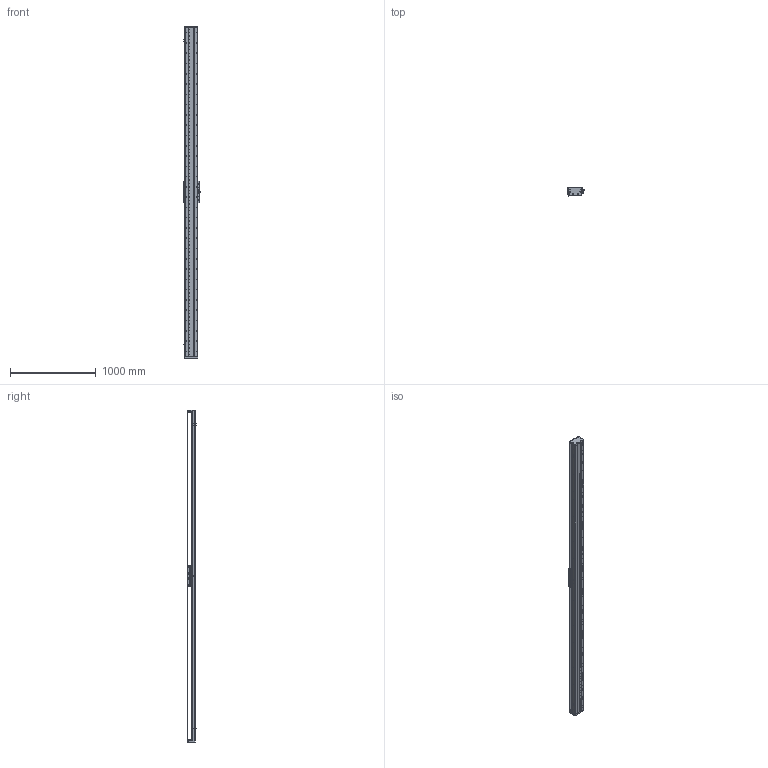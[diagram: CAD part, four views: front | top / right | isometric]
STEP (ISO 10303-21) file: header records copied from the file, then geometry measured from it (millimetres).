
FILE_DESCRIPTION (( 'STEP AP203' ), '1' );
FILE_NAME ('DA-C145-C3-T3540-C010-0.2 眻盄萇儂.STEP', '2025-08-14T01:39:30', ( '' ), ( '' ), 'SwSTEP 2.0', 'SolidWorks 2019', '' );
FILE_SCHEMA (( 'CONFIG_CONTROL_DESIGN' ));
Length unit declared in the file: millimetre
Products named in the file (32): 葩璃 DA95-GT-T-00^IU-CU145-L 菁釱絳寢; 复件 DA145-DG 钢带端盖^复件 CU145 钢带组件_DA-C145-C3-T-C010-0.2; 复件 半圆头内六角螺钉 M3×6^CU145-W 滚珠滑台; 复件 DA95-HK-GT-00 滑块钢轨^CU145-W-00 一体化滑动台板; TAY01-M8; 复件 DA145-GYP-00 光电感应片^DA-C145-C3-T-C010-0.2; 复件 DA145-C3-YB-A-00 压板A^CU145-W 滚珠滑台; 葩璃 DA145-C3-DP-B-00 菜えB^CU145-W 幗紩賑怢; 复件 DA145-C3-YB-B-00 压板B^CU145-W 滚珠滑台; 葩璃 CKMA01-W060-TRL^DA-C145-C3-T-C010-0.2; 葩璃 CU145 詩湍郪璃^DA-C145-C3-T-C010-0.2; 复件 DA145 钢带^复件 CU145 钢带组件_DA-C145-C3-T-C010-0.2; IU-CU145-L 菁釱絳寢; CU145-W 幗紩賑怢; 葩璃 PM-T45^DA-C145-C3-T-C010-0.2; IU-CU145-L-00 菁釱(L3840); 复件 内六角平端紧定螺钉 GB.T77-2000 M5×10^CU145-W 滚珠滑台; 66245-CU145-HT-W-00 賑雄怢啣(3D芞祧)(00); CU145-W-00 珨极趙賑雄怢啣; 葩璃 DA145-C3-DP-A-00 菜えA^CU145-W 幗紩賑怢; 葩璃 DMA-010-0.2 黍杅芛^DA-C145-C3-T-C010-0.2; 葩璃 DA95-HXJ-00 遣喳砎蝶^DA-C145-C3-T-C010-0.2; 复件 DA145-C3-DK-00 挡块^CU145-W 滚珠滑台; 复件 DA95-DB-00  挡板^CU145-W 滚珠滑台; 葩璃 CKM03-W060-C1C2-TP-0.2^DA-C145-C3-T-C010-0.2; 复件 纯铜油杯 6x6mm^CU145-W 滚珠滑台; 葩璃 鞠褒情蹟譫 M3^DA-C145-C3-T-C010-0.2; 葩璃 XD-U-02L 棠掑喜^DA-C145-C3-T-C010-0.2; DA-C145-C3-T3540-C010-0.2 眻盄萇儂; 复件 DA146 钢带垫块^复件 CU145 钢带组件_DA-C145-C3-T-C010-0.2; 复件 DA146 钢带拉块^复件 CU145 钢带组件_DA-C145-C3-T-C010-0.2; 复件 DA95-MFP-01 密封片^CU145-W 滚珠滑台
Assembly tree (103 placements, depth 4):
  DA-C145-C3-T3540-C010-0.2 眻盄萇儂
    IU-CU145-L 菁釱絳寢
      IU-CU145-L-00 菁釱(L3840)
      葩璃 DA95-GT-T-00^IU-CU145-L 菁釱絳寢  x4
    葩璃 CU145 詩湍郪璃^DA-C145-C3-T-C010-0.2
      复件 DA145-DG 钢带端盖^复件 CU145 钢带组件_DA-C145-C3-T-C010-0.2  x2
      复件 DA146 钢带拉块^复件 CU145 钢带组件_DA-C145-C3-T-C010-0.2  x2
      复件 DA146 钢带垫块^复件 CU145 钢带组件_DA-C145-C3-T-C010-0.2  x2
      复件 DA145 钢带^复件 CU145 钢带组件_DA-C145-C3-T-C010-0.2
    CU145-W 幗紩賑怢
      CU145-W-00 珨极趙賑雄怢啣
        66245-CU145-HT-W-00 賑雄怢啣(3D芞祧)(00)
        复件 DA95-HK-GT-00 滑块钢轨^CU145-W-00 一体化滑动台板  x8
      复件 DA95-MFP-01 密封片^CU145-W 滚珠滑台  x8
      复件 DA95-DB-00  挡板^CU145-W 滚珠滑台  x8
      复件 内六角平端紧定螺钉 GB.T77-2000 M5×10^CU145-W 滚珠滑台  x4
      复件 纯铜油杯 6x6mm^CU145-W 滚珠滑台  x4
      复件 半圆头内六角螺钉 M3×6^CU145-W 滚珠滑台  x16
      复件 DA145-C3-DK-00 挡块^CU145-W 滚珠滑台  x4
      葩璃 DA145-C3-DP-B-00 菜えB^CU145-W 幗紩賑怢  x2
      复件 DA145-C3-YB-B-00 压板B^CU145-W 滚珠滑台  x2
      葩璃 DA145-C3-DP-A-00 菜えA^CU145-W 幗紩賑怢  x3
      复件 DA145-C3-YB-A-00 压板A^CU145-W 滚珠滑台  x3
      TAY01-M8  x4
    葩璃 CKMA01-W060-TRL^DA-C145-C3-T-C010-0.2
    葩璃 PM-T45^DA-C145-C3-T-C010-0.2  x3
    葩璃 XD-U-02L 棠掑喜^DA-C145-C3-T-C010-0.2
    葩璃 DA95-HXJ-00 遣喳砎蝶^DA-C145-C3-T-C010-0.2  x4
    复件 DA145-GYP-00 光电感应片^DA-C145-C3-T-C010-0.2
    葩璃 DMA-010-0.2 黍杅芛^DA-C145-C3-T-C010-0.2
    葩璃 CKM03-W060-C1C2-TP-0.2^DA-C145-C3-T-C010-0.2
    葩璃 鞠褒情蹟譫 M3^DA-C145-C3-T-C010-0.2  x8
Bounding box: 203.5 x 108.45 x 3876 mm (x, y, z)
Volume: 17209481.9 mm3; surface area: 5887202.4 mm2
Topology: 99 solids, 131 shells, 5139 faces, 15320 edges, 9678 vertices
Faces by surface type: cylinder 2755, plane 1616, cone 690, torus 74, sphere 4
Entity records: 157422 total; most frequent: CARTESIAN_POINT 50442, ORIENTED_EDGE 22160, DIRECTION 20351, EDGE_CURVE 11080, AXIS2_PLACEMENT_3D 7674, VERTEX_POINT 7217, VECTOR 5003, LINE 5003
